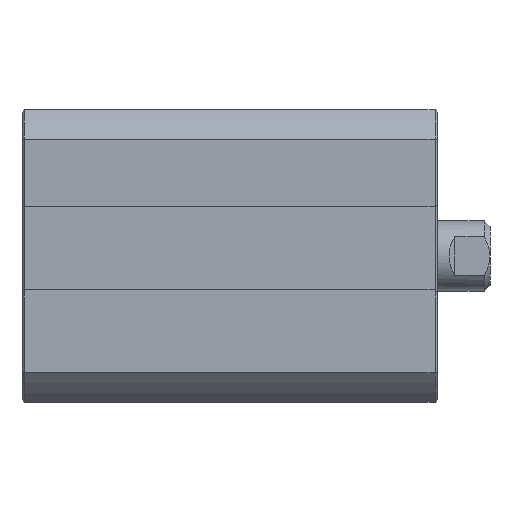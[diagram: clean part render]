
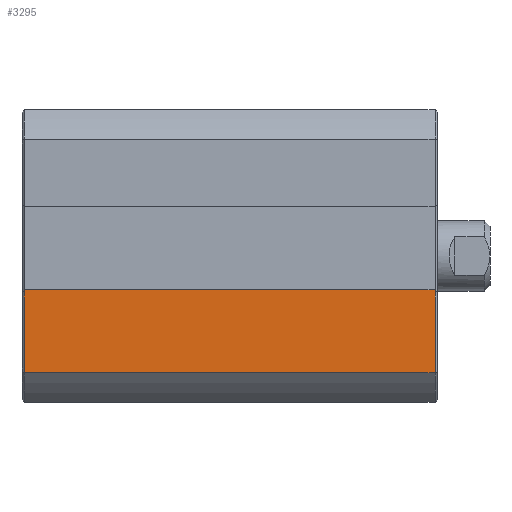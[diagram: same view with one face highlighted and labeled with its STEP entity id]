
A CAD part, left-side view. The second image highlights one B-rep face of the part: STEP entity #3295.
In plain terms, the highlighted planar face has unit normal (-1, 0, 0).
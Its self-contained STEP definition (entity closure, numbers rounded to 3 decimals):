
#89=LINE('',#4648,#273);
#91=LINE('',#4652,#275);
#92=LINE('',#4654,#276);
#93=LINE('',#4656,#277);
#273=VECTOR('',#3996,1000.);
#275=VECTOR('',#4000,1000.);
#276=VECTOR('',#4001,1000.);
#277=VECTOR('',#4002,1000.);
#466=PLANE('',#3527);
#787=ORIENTED_EDGE('',*,*,#1268,.F.);
#788=ORIENTED_EDGE('',*,*,#1270,.T.);
#789=ORIENTED_EDGE('',*,*,#1271,.T.);
#790=ORIENTED_EDGE('',*,*,#1272,.T.);
#1268=EDGE_CURVE('',#1530,#1531,#89,.T.);
#1270=EDGE_CURVE('',#1530,#1532,#91,.T.);
#1271=EDGE_CURVE('',#1532,#1533,#92,.T.);
#1272=EDGE_CURVE('',#1533,#1531,#93,.T.);
#1530=VERTEX_POINT('',#4647);
#1531=VERTEX_POINT('',#4649);
#1532=VERTEX_POINT('',#4653);
#1533=VERTEX_POINT('',#4655);
#1824=EDGE_LOOP('',(#787,#788,#789,#790));
#2026=FACE_BOUND('',#1824,.T.);
#3295=ADVANCED_FACE('',(#2026),#466,.F.);
#3527=AXIS2_PLACEMENT_3D('',#4651,#3998,#3999);
#3996=DIRECTION('',(0.,-1.,0.));
#3998=DIRECTION('',(1.,0.,0.));
#3999=DIRECTION('',(0.,0.,-1.));
#4000=DIRECTION('',(0.,0.,-1.));
#4001=DIRECTION('',(0.,-1.,0.));
#4002=DIRECTION('',(0.,0.,1.));
#4647=CARTESIAN_POINT('',(-12.5,35.3,-2.9));
#4648=CARTESIAN_POINT('',(-12.5,25.5,-2.9));
#4649=CARTESIAN_POINT('',(-12.5,0.2,-2.9));
#4651=CARTESIAN_POINT('',(-12.5,25.5,-9.987));
#4652=CARTESIAN_POINT('',(-12.5,35.3,0.));
#4653=CARTESIAN_POINT('',(-12.5,35.3,-9.987));
#4654=CARTESIAN_POINT('',(-12.5,25.5,-9.987));
#4655=CARTESIAN_POINT('',(-12.5,0.2,-9.987));
#4656=CARTESIAN_POINT('',(-12.5,0.2,-9.987));
